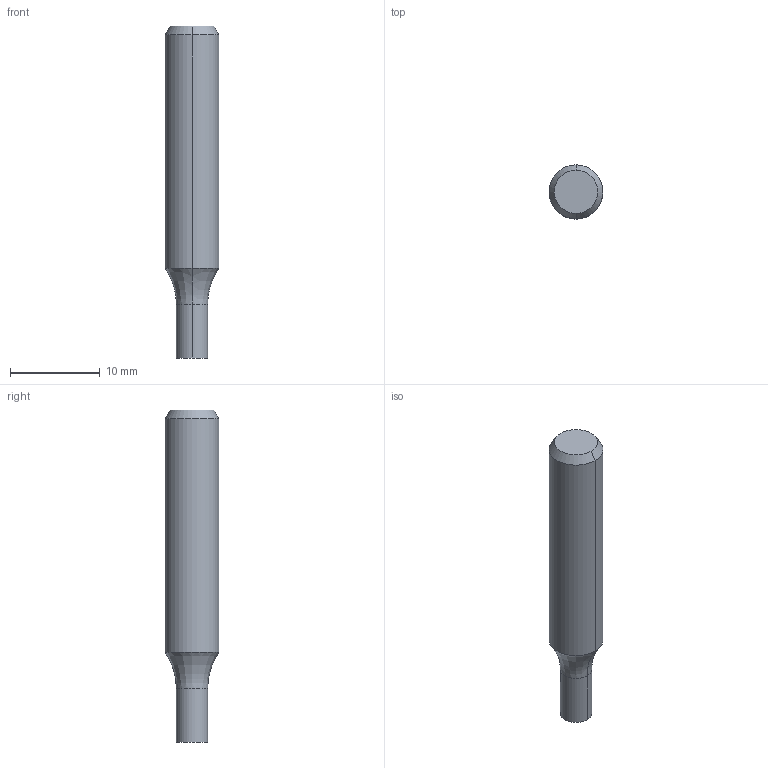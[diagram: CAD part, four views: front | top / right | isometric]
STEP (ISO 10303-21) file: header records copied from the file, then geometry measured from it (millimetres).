
FILE_DESCRIPTION((''),'2;1');
FILE_NAME('DIN4003_82_HEURO','2018-10-10T',('automd'),(''),'PRO/ENGINEER BY PARAMETRIC TECHNOLOGY CORPORATION, 2015280','PRO/ENGINEER BY PARAMETRIC TECHNOLOGY CORPORATION, 2015280','');
FILE_SCHEMA(('AUTOMOTIVE_DESIGN { 1 0 10303 214 1 1 1 1 }'));
Length unit declared in the file: millimetre
Products named in the file (1): DIN4003_82_HEURO
Bounding box: 6 x 6 x 37 mm (x, y, z)
Volume: 875.8 mm3; surface area: 661.9 mm2
Topology: 1 solids, 1 shells, 10 faces, 20 edges, 13 vertices
Faces by surface type: bspline 10
Entity records: 753 total; most frequent: CARTESIAN_POINT 327, DIRECTION 61, ORIENTED_EDGE 36, AXIS2_PLACEMENT_3D 24, PRESENTATION_STYLE_ASSIGNMENT 20, STYLED_ITEM 20, COLOUR_RGB 18, EDGE_CURVE 18
